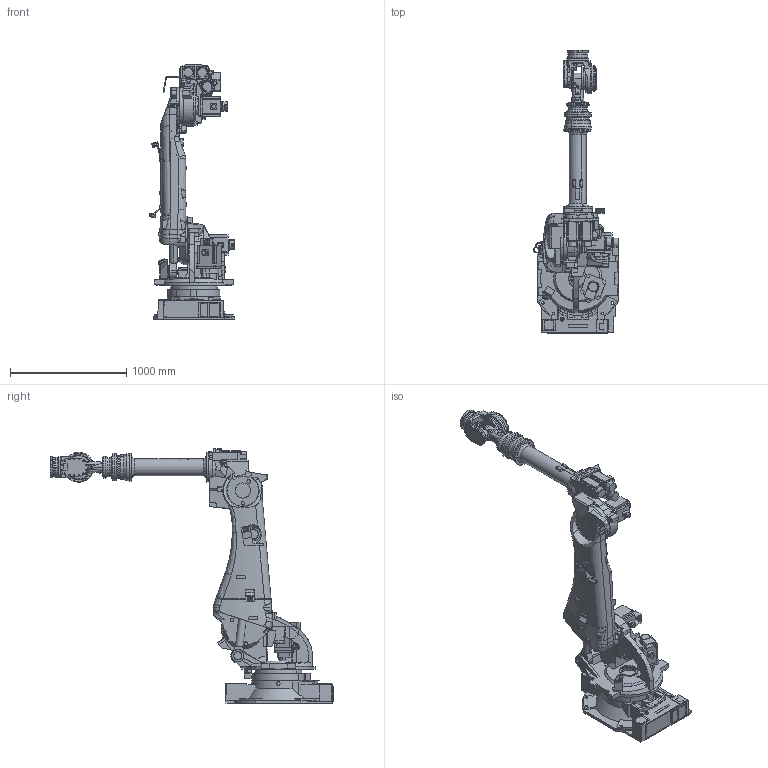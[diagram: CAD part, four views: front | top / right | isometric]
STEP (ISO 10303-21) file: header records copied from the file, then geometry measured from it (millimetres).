
FILE_DESCRIPTION(('CATIA V5 STEP Exchange'),'2;1');
FILE_NAME('X:\ROBOTDEV\Data1\ROBOT\CATIA06\products\SRA\SRA240L-01\Assy\FTP\catia\SRA240L-01.stp','2023-04-11T09:13:49+00:00',('none'),('none'),'CATIA Version 5-6 Release 2016 SP3','CATIA V5 STEP AP203','none');
FILE_SCHEMA(('CONFIG_CONTROL_DESIGN'));
Products named in the file (1): SRA240L-01
Assembly tree (9 placements, depth 2):
  SRA240L-01
    #57
    #15805
    #57567
    #91730
    #121275
    #126986
    #139907
    #143628
    #144952
Bounding box: 735.91 x 2435.5 x 2190 mm (x, y, z)
Volume: 109943840 mm3; surface area: 11698316.2 mm2
Topology: 10 solids, 928 shells, 3259 faces, 11293 edges, 9049 vertices
Faces by surface type: plane 1740, cylinder 826, bspline 409, revolution 193, cone 80, torus 10, extrusion 1
Entity records: 146278 total; most frequent: CARTESIAN_POINT 62850, ORIENTED_EDGE 17666, EDGE_CURVE 11226, DIRECTION 10594, VERTEX_POINT 9049, B_SPLINE_CURVE_WITH_KNOTS 6334, AXIS2_PLACEMENT_3D 4343, EDGE_LOOP 3499
